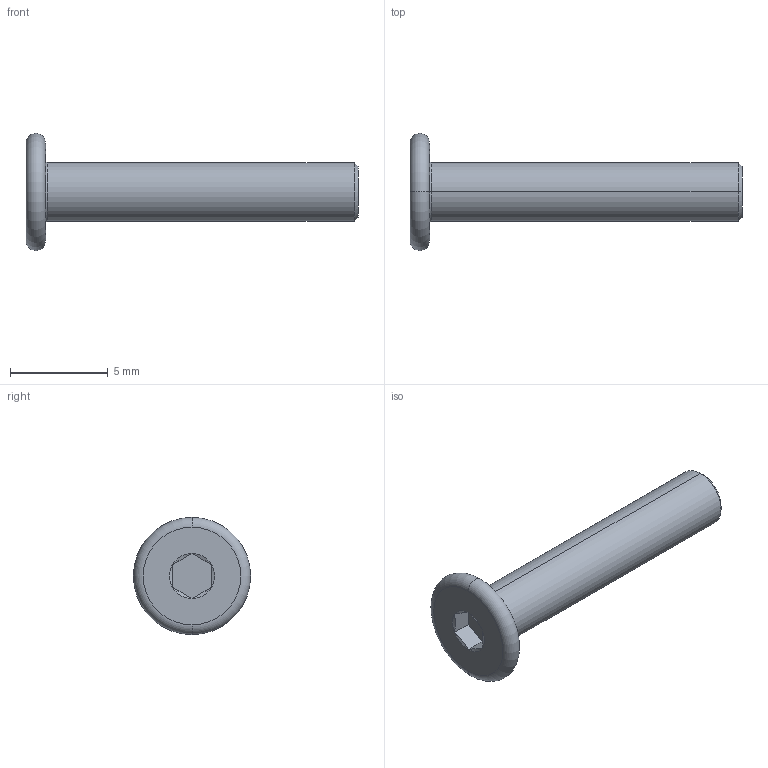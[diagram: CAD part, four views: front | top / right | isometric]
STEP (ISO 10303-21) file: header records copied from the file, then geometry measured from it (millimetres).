
FILE_DESCRIPTION (( 'STEP AP203' ), '1' );
FILE_NAME ('LGD-304M-M3x16.STEP', '2026-08-13T09:35:10', ( '' ), ( '' ), 'SwSTEP 2.0', 'SolidWorks 2020', '' );
FILE_SCHEMA (( 'CONFIG_CONTROL_DESIGN' ));
Length unit declared in the file: millimetre
Products named in the file (1): LGD-304M-M3x16
Bounding box: 17 x 6 x 6 mm (x, y, z)
Volume: 135.8 mm3; surface area: 223 mm2
Topology: 1 solids, 1 shells, 24 faces, 44 edges, 24 vertices
Faces by surface type: plane 10, cone 8, torus 4, cylinder 2
Entity records: 677 total; most frequent: CARTESIAN_POINT 123, DIRECTION 110, ORIENTED_EDGE 88, AXIS2_PLACEMENT_3D 47, EDGE_CURVE 44, EDGE_LOOP 26, VERTEX_POINT 24, FACE_OUTER_BOUND 24
